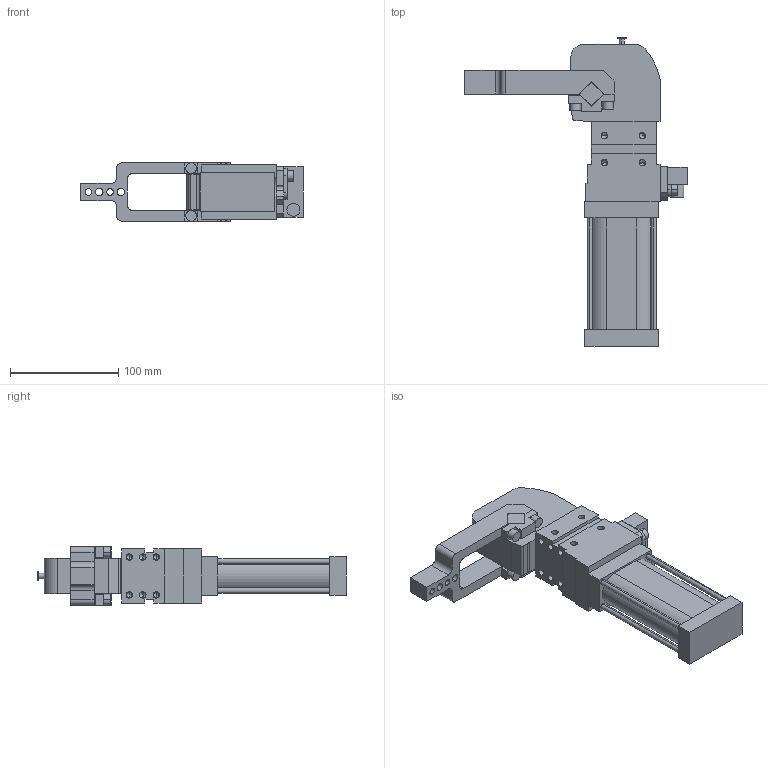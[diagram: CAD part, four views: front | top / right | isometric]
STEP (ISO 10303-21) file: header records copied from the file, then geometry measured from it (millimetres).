
FILE_DESCRIPTION (( 'STEP AP214' ), '1' );
FILE_NAME ('cpl40v2ci1g_135.STEP', '2021-05-25T10:40:05', ( '' ), ( '' ), 'SwSTEP 2.0', 'SolidWorks 2021', '' );
FILE_SCHEMA (( 'AUTOMOTIVE_DESIGN' ));
Length unit declared in the file: millimetre
Products named in the file (5): meccanica_cpl40; piastra_blocchetto_cpl40; cpl40v2ci1g_135; leva_v2c_cpl40; blocchetto_VEP_0_cpl40
Assembly tree (4 placements, depth 2):
  cpl40v2ci1g_135
    meccanica_cpl40
    leva_v2c_cpl40
    blocchetto_VEP_0_cpl40
    piastra_blocchetto_cpl40
Bounding box: 205.5 x 285 x 54 mm (x, y, z)
Volume: 763965.7 mm3; surface area: 115813 mm2
Topology: 5 solids, 5 shells, 404 faces, 1028 edges, 641 vertices
Faces by surface type: plane 214, cylinder 142, cone 48
Entity records: 13443 total; most frequent: DIRECTION 2118, CARTESIAN_POINT 2034, ORIENTED_EDGE 1964, EDGE_CURVE 982, AXIS2_PLACEMENT_3D 725, VECTOR 668, LINE 668, VERTEX_POINT 641
